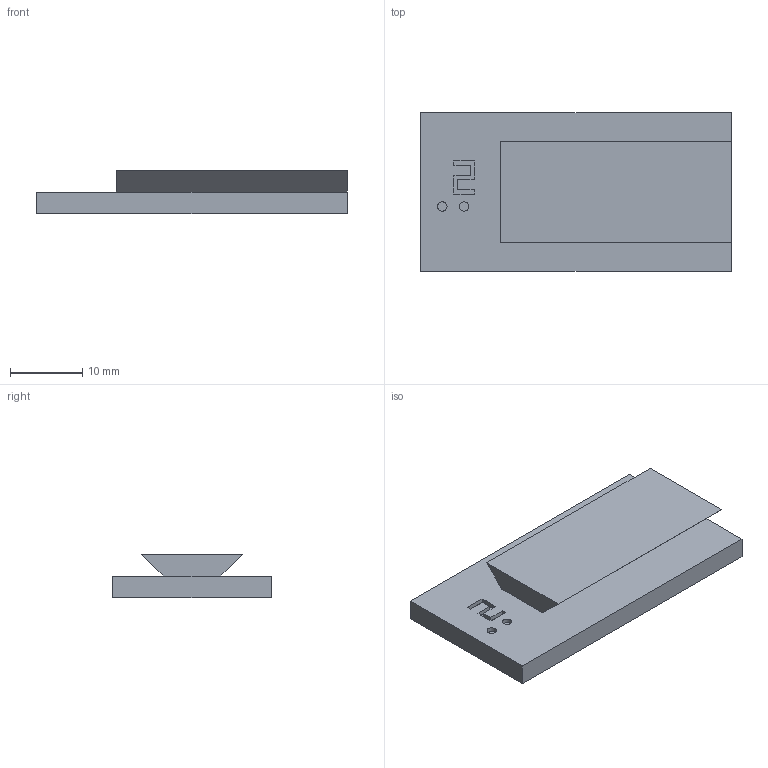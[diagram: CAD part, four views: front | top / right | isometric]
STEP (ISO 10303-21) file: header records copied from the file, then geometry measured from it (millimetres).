
FILE_DESCRIPTION(('Open CASCADE Model'),'2;1');
FILE_NAME('Open CASCADE Shape Model','2026-09-13T15:34:20',('Author'),( 'Open CASCADE'),'Open CASCADE STEP processor 7.9','build123d', 'Unknown');
FILE_SCHEMA(('AUTOMOTIVE_DESIGN { 1 0 10303 214 1 1 1 1 }'));
Length unit declared in the file: millimetre
Products named in the file (1): COMPOUND
Bounding box: 43 x 22 x 6 mm (x, y, z)
Volume: 3888.4 mm3; surface area: 2831.1 mm2
Topology: 1 solids, 1 shells, 35 faces, 90 edges, 60 vertices
Faces by surface type: plane 33, cylinder 2
Full cylindrical faces by diameter (mm): 1.3 x2
Entity records: 2171 total; most frequent: CARTESIAN_POINT 423, DIRECTION 289, LINE 205, VECTOR 205, ORIENTED_EDGE 180, PCURVE 180, DEFINITIONAL_REPRESENTATION 180, EDGE_CURVE 90
